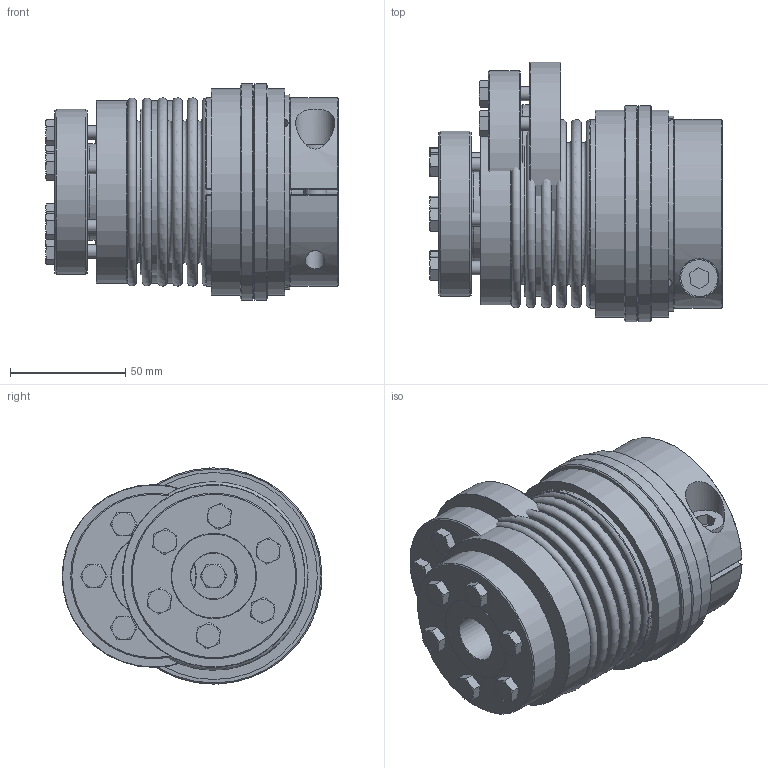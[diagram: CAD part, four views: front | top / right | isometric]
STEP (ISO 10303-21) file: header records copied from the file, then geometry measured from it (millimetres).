
FILE_DESCRIPTION( ( 'Unknown' ), '1' );
FILE_NAME( 'C:/Dokumente und Einstellungen/SKarpstein/Desktop/Korrigierte 3D Modelle/KBK-B-AK/KBK-BAK-150-127.stp', 'Unknown', ( 'Unknown' ), ( 'Unknown' ), 'XStep 1.0', 'Unknown', ' ' );
FILE_SCHEMA( ( 'automotive_design' ) );
Length unit declared in the file: millimetre
Products named in the file (13): Assem1; Assem2; Assem3; Zylinderschraube DIN 912_1; BA80-150_Standard; Hex Screw GradeC_DIN_ISO 4018 - M6 x 30-NN; DR80-150_Standard; Stellring 80; Druckring 80; KBK L-K-80 Grundkörper; Klemmnabe 80; Flansch BK150; BL80-150_Standard_3
Bounding box: 127.15 x 112.93 x 94 mm (x, y, z)
Volume: 982359.5 mm3; surface area: 397631.3 mm2
Topology: 34 solids, 34 shells, 640 faces, 1339 edges, 861 vertices
Faces by surface type: plane 286, cone 167, cylinder 139, torus 48
Full cylindrical faces by diameter (mm): 3.242 x6, 5 x26, 5.2 x6, 6 x13, 6.6 x18, 8.376 x2, 10 x3, 10.5 x2, 16 x3, 17 x2, 19 x2, 20 x3, 37.5 x2, 40 x4, 42 x2, 42.29 x3, 48 x2, 52 x2, 62 x4, 70 x2, 70.7 x4, 71.9 x4, 72 x3, 79.5 x3, 85 x2, 87 x2, 90 x4, 94 x2
Entity records: 5768 total; most frequent: CARTESIAN_POINT 1367, DIRECTION 884, ORIENTED_EDGE 580, AXIS2_PLACEMENT_3D 411, EDGE_LOOP 398, EDGE_CURVE 290, FACE_OUTER_BOUND 280, VERTEX_POINT 250
